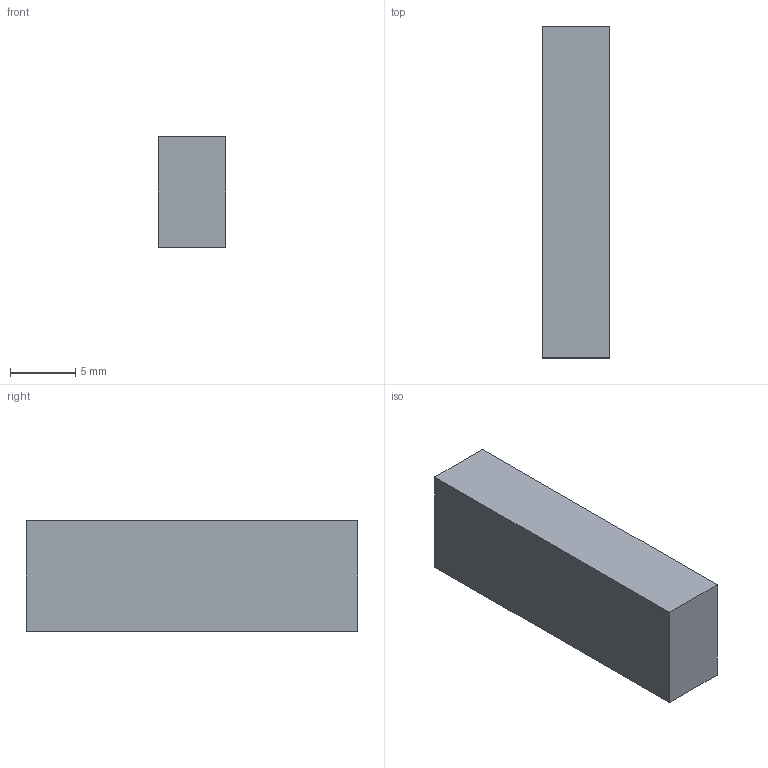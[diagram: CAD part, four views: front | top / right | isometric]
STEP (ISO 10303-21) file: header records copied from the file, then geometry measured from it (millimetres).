
FILE_DESCRIPTION(('Through-hole socket strip 2x10, 2.54 mm pitch -- body envelope 8.50 mm tall (2.54 mm socket strip, mating height (ICD-EEG-006 section 4))'),'2;1');
FILE_NAME('PinSocket_2x10_P2.54mm_Vertical','2026-09-08T00:00:00',('TI One Voice research programme'),(''),'EEG-CAR-01 step_write.py','','CC BY-SA 4.0');
FILE_SCHEMA(('AUTOMOTIVE_DESIGN { 1 0 10303 214 1 1 1 1 }'));
Length unit declared in the file: millimetre
Products named in the file (1): PinSocket_2x10_P2.54mm_Vertical
Bounding box: 5.2 x 25.52 x 8.5 mm (x, y, z)
Volume: 1128 mm3; surface area: 787.6 mm2
Topology: 1 solids, 1 shells, 6 faces, 12 edges, 8 vertices
Faces by surface type: plane 6
Entity records: 67 total; most frequent: DIRECTION 14, CARTESIAN_POINT 9, AXIS2_PLACEMENT_3D 7, POLY_LOOP 6, FACE_OUTER_BOUND 6, PLANE 6, FACE_SURFACE 6, UNCERTAINTY_MEASURE_WITH_UNIT 1
